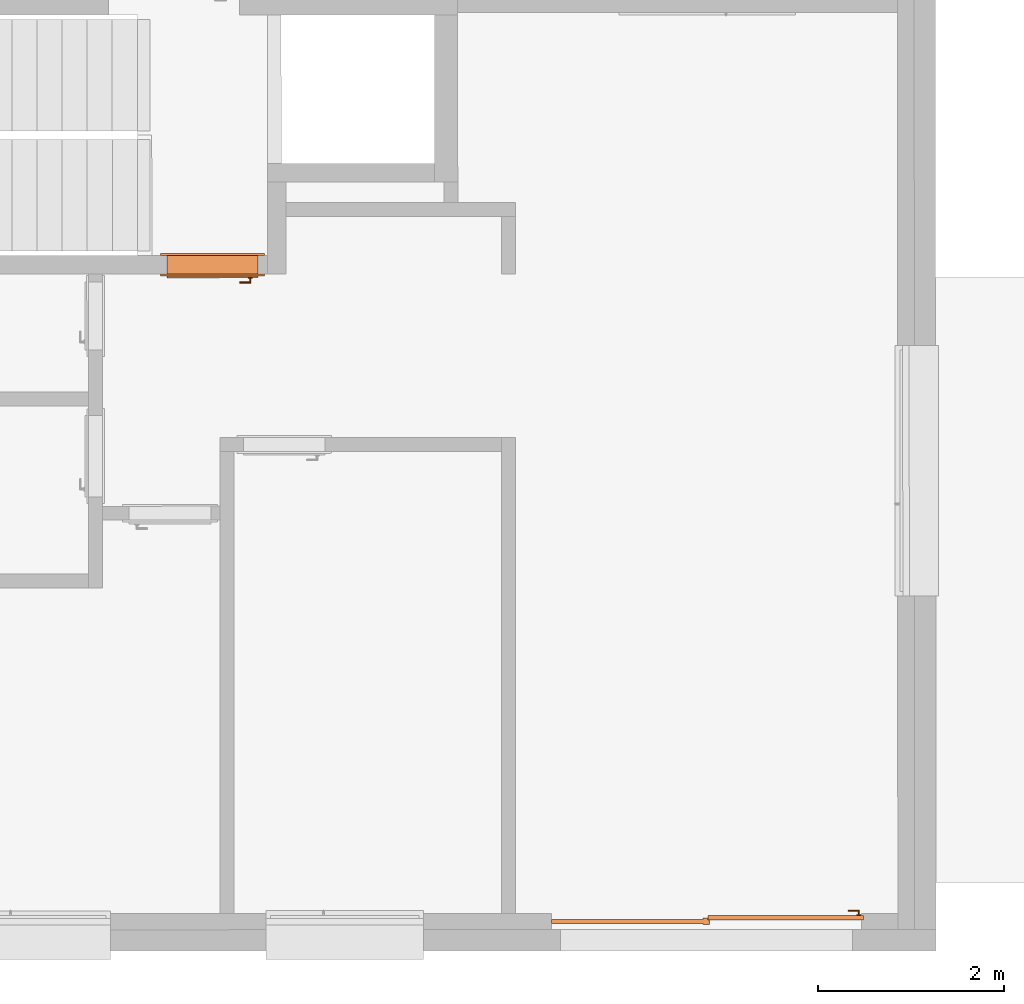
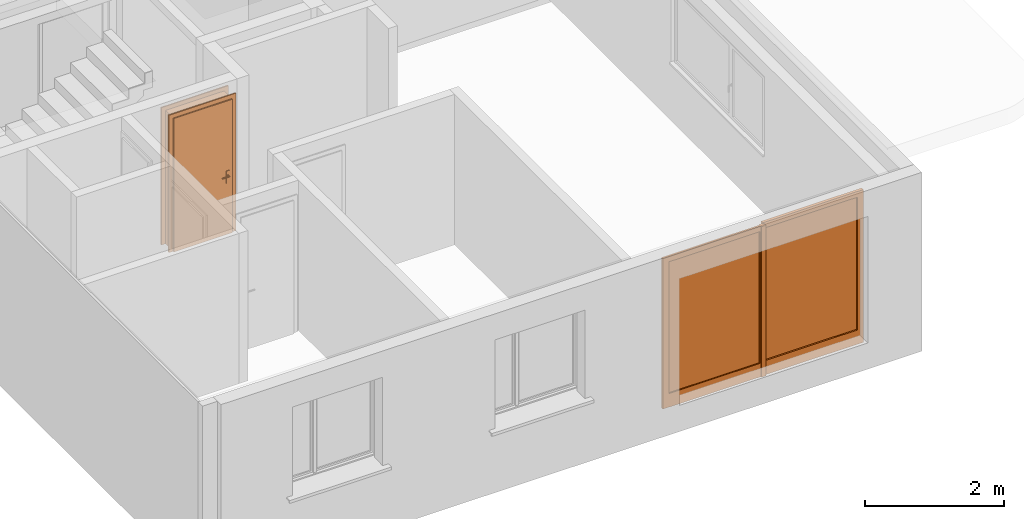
# One storey, part 6 of 9: 2 proxies.
"""IFC2X3 building model written with IfcOpenShell, lengths in metres."""

from ifc_helpers import new_model, entity, si_unit, converted_unit, derived_unit, direction, frame, origin, origin_with_axes, place, context, subcontext, project, spatial, closed_shell, open_shell, faceted_brep, surface_model, source, transform, mapped, element, save


model = new_model("IFC2X3")

# Units and contexts
model_context = context("Model", 3, precision=1e-05, world=origin(), true_north=direction((0.772621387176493, -0.634867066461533)))
body_context = subcontext(model_context, "Body", "Model", "MODEL_VIEW")
ifc_project = project(units=[si_unit("LENGTHUNIT", "METRE"), si_unit("AREAUNIT", "SQUARE_METRE"), si_unit("VOLUMEUNIT", "CUBIC_METRE"), si_unit("MASSUNIT", "GRAM", prefix="KILO"), converted_unit("PLANEANGLEUNIT", "DEGREE", entity("IfcPlaneAngleMeasure", 0.0174532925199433), si_unit("PLANEANGLEUNIT", "RADIAN"), dimensions=[0, 0, 0, 0, 0, 0, 0]), derived_unit("THERMALTRANSMITTANCEUNIT", [(si_unit("POWERUNIT", "WATT"), 1), (si_unit("THERMODYNAMICTEMPERATUREUNIT", "KELVIN"), -1), (si_unit("LENGTHUNIT", "METRE"), -2)]), derived_unit("VOLUMETRICFLOWRATEUNIT", [(si_unit("LENGTHUNIT", "METRE"), 3), (converted_unit("TIMEUNIT", "hour", entity("IfcTimeMeasure", 3600.0), si_unit("TIMEUNIT", "SECOND"), dimensions=[0, 0, 1, 0, 0, 0, 0]), -1), (si_unit("LENGTHUNIT", "METRE"), -1)])], contexts=[model_context])

# Site, building, storey
site_placement = place(None, origin())
site = spatial("IfcSite", under=ifc_project, at=site_placement, Name="Modelle auf dem Nullpunkt", CompositionType="ELEMENT")
building_placement = place(site_placement, origin())
building = spatial("IfcBuilding", under=site, at=building_placement, Name="I", CompositionType="ELEMENT")
storey_placement = place(building_placement, origin())
storey = spatial("IfcBuildingStorey", under=building, at=storey_placement, Name="EG", CompositionType="ELEMENT", Elevation=0.0)

# Proxies
shared_shape_1 = source(origin_with_axes(), body_context, "Body", "SurfaceModel", [
    surface_model("IfcShellBasedSurfaceModel", [(1.70500000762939, 0.0, 2.67), (1.70500000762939, 0.0, 0.02), (1.63500000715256, 0.0, 0.02), (1.63500000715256, 0.0, 2.67), (1.70500000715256, 0.0699999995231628, 0.02), (1.70500000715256, 0.0699999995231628, 2.67), (1.63500000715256, 0.0699999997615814, 2.67), (1.63500000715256, 0.0699999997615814, 0.02)], [closed_shell([[[0, 1, 2, 3]], [[4, 5, 6, 7]], [[1, 0, 5, 4]], [[2, 1, 4, 7]], [[3, 2, 7, 6]], [[0, 3, 6, 5]]], orient=[[False], [False], [False], [False], [False], [False]])]),
    surface_model("IfcShellBasedSurfaceModel", [(3.36000000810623, 0.0499999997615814, 2.69), (3.36000000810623, 0.0499999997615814, 0.0), (3.26000000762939, 0.0499999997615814, 0.0), (3.26000000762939, 0.0499999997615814, 2.69), (3.36000000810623, 0.0999999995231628, 0.0), (3.36000000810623, 0.0999999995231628, 2.69), (3.26000000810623, 0.0999999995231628, 2.69), (3.26000000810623, 0.0999999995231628, 0.0)], [closed_shell([[[0, 1, 2, 3]], [[4, 5, 6, 7]], [[1, 0, 5, 4]], [[2, 1, 4, 7]], [[3, 2, 7, 6]], [[0, 3, 6, 5]]], orient=[[False], [False], [False], [False], [False], [False]])]),
    surface_model("IfcShellBasedSurfaceModel", [(1.72500000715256, 0.0499999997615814, 2.69), (1.72500000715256, 0.0499999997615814, 0.0), (1.68500000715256, 0.0499999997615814, 0.0), (1.68500000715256, 0.0499999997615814, 2.69), (1.72500000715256, 0.0999999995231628, 0.0), (1.72500000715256, 0.0999999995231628, 2.69), (1.68500000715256, 0.0999999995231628, 2.69), (1.68500000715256, 0.0999999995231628, 0.0)], [closed_shell([[[0, 1, 2, 3]], [[4, 5, 6, 7]], [[1, 0, 5, 4]], [[2, 1, 4, 7]], [[3, 2, 7, 6]], [[0, 3, 6, 5]]], orient=[[False], [False], [False], [False], [False], [False]])]),
    surface_model("IfcShellBasedSurfaceModel", [(3.26000000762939, 0.0499999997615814, 0.25), (3.26000000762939, 0.0499999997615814, 0.0), (1.72500000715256, 0.0499999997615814, 0.0), (1.72500000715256, 0.0499999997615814, 0.25), (3.26000000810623, 0.0999999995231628, 0.0), (3.26000000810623, 0.0999999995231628, 0.25), (1.72500000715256, 0.0999999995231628, 0.25), (1.72500000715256, 0.0999999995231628, 0.0)], [closed_shell([[[0, 1, 2, 3]], [[4, 5, 6, 7]], [[1, 0, 5, 4]], [[2, 1, 4, 7]], [[3, 2, 7, 6]], [[0, 3, 6, 5]]], orient=[[False], [False], [False], [False], [False], [False]])]),
    surface_model("IfcShellBasedSurfaceModel", [(3.26000000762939, 0.0499999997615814, 2.69), (3.26000000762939, 0.0499999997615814, 2.59), (1.72500000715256, 0.0499999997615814, 2.59), (1.72500000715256, 0.0499999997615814, 2.69), (3.26000000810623, 0.0999999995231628, 2.59), (3.26000000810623, 0.0999999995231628, 2.69), (1.72500000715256, 0.0999999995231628, 2.69), (1.72500000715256, 0.0999999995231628, 2.59)], [closed_shell([[[0, 1, 2, 3]], [[4, 5, 6, 7]], [[1, 0, 5, 4]], [[2, 1, 4, 7]], [[3, 2, 7, 6]], [[0, 3, 6, 5]]], orient=[[False], [False], [False], [False], [False], [False]])]),
    surface_model("IfcShellBasedSurfaceModel", [(3.33500000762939, 0.0999999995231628, 1.145), (3.33500000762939, 0.0999999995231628, 0.93), (3.28500000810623, 0.0999999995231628, 0.93), (3.28500000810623, 0.0999999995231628, 1.145), (3.33500000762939, 0.109999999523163, 0.93), (3.33500000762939, 0.109999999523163, 1.145), (3.28500000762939, 0.109999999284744, 1.145), (3.28500000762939, 0.109999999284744, 0.93)], [closed_shell([[[0, 1, 2, 3]], [[4, 5, 6, 7]], [[1, 0, 5, 4]], [[2, 1, 4, 7]], [[3, 2, 7, 6]], [[0, 3, 6, 5]]], orient=[[False], [False], [False], [False], [False], [False]])]),
    surface_model("IfcShellBasedSurfaceModel", [(3.31000000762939, 0.109999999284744, 1.08), (3.31500000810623, 0.109999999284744, 1.07866025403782), (3.31866026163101, 0.109999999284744, 1.075), (3.32000000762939, 0.109999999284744, 1.07), (3.31866026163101, 0.109999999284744, 1.065), (3.31500000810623, 0.109999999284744, 1.06133974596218), (3.31000000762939, 0.109999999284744, 1.06), (3.30500000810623, 0.109999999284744, 1.06133974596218), (3.30133975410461, 0.109999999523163, 1.065), (3.30000000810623, 0.109999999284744, 1.07), (3.30133975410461, 0.109999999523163, 1.075), (3.30500000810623, 0.109999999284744, 1.07866025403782), (3.31000000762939, 0.149999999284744, 1.08), (3.31500000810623, 0.154999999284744, 1.07866025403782), (3.31866026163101, 0.158660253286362, 1.075), (3.32000000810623, 0.159999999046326, 1.07), (3.31866026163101, 0.158660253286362, 1.065), (3.31500000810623, 0.154999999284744, 1.06133974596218), (3.31000000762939, 0.149999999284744, 1.06), (3.30500000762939, 0.144999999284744, 1.06133974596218), (3.30133975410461, 0.141339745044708, 1.065), (3.30000000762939, 0.139999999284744, 1.07), (3.30133975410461, 0.141339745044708, 1.075), (3.30500000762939, 0.144999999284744, 1.07866025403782), (3.19500000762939, 0.149999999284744, 1.08), (3.19500000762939, 0.144999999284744, 1.07866025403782), (3.19500000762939, 0.141339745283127, 1.075), (3.19500000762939, 0.139999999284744, 1.07), (3.19500000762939, 0.141339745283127, 1.065), (3.19500000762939, 0.144999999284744, 1.06133974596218), (3.19500000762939, 0.149999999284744, 1.06), (3.19500000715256, 0.154999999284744, 1.06133974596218), (3.19500000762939, 0.158660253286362, 1.065), (3.19500000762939, 0.159999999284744, 1.07), (3.19500000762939, 0.158660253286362, 1.075), (3.19500000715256, 0.154999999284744, 1.07866025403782)], [closed_shell([[[0, 1, 2, 3, 4, 5, 6, 7, 8, 9, 10, 11]], [[0, 12, 13, 1]], [[1, 13, 14, 2]], [[2, 14, 15, 3]], [[3, 15, 16, 4]], [[4, 16, 17, 5]], [[5, 17, 18, 6]], [[6, 18, 19, 7]], [[7, 19, 20, 8]], [[8, 20, 21, 9]], [[9, 21, 22, 10]], [[10, 22, 23, 11]], [[11, 23, 12, 0]], [[24, 25, 26, 27, 28, 29, 30, 31, 32, 33, 34, 35]], [[12, 24, 35, 13]], [[13, 35, 34, 14]], [[14, 34, 33, 15]], [[15, 33, 32, 16]], [[16, 32, 31, 17]], [[17, 31, 30, 18]], [[18, 30, 29, 19]], [[19, 29, 28, 20]], [[20, 28, 27, 21]], [[21, 27, 26, 22]], [[22, 26, 25, 23]], [[23, 25, 24, 12]]], orient=[[False], [False], [False], [False], [False], [False], [False], [False], [False], [False], [False], [False], [False], [False], [False], [False], [False], [False], [False], [False], [False], [False], [False], [False], [False], [False]])]),
    surface_model("IfcShellBasedSurfaceModel", [(1.63500000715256, 0.0149999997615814, 2.67), (1.63500000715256, 0.0149999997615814, 0.02), (1.61500000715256, 0.015, 0.02), (1.61500000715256, 0.015, 2.67), (1.63500000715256, 0.0549999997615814, 0.02), (1.63500000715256, 0.0549999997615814, 2.67), (1.61500000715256, 0.0549999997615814, 2.67), (1.61500000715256, 0.0549999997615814, 0.02)], [closed_shell([[[0, 1, 2, 3]], [[4, 5, 6, 7]], [[1, 0, 5, 4]], [[2, 1, 4, 7]], [[3, 2, 7, 6]], [[0, 3, 6, 5]]], orient=[[False], [False], [False], [False], [False], [False]])]),
    surface_model("IfcShellBasedSurfaceModel", [(0.10000000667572, 0.0150000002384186, 2.67), (0.10000000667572, 0.0150000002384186, 0.02), (0.0, 0.0150000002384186, 0.02), (0.0, 0.0150000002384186, 2.67), (0.10000000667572, 0.0549999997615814, 0.02), (0.10000000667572, 0.0549999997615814, 2.67), (0.0, 0.0549999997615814, 2.67), (0.0, 0.0549999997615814, 0.02)], [closed_shell([[[0, 1, 2, 3]], [[4, 5, 6, 7]], [[1, 0, 5, 4]], [[2, 1, 4, 7]], [[3, 2, 7, 6]], [[0, 3, 6, 5]]], orient=[[False], [False], [False], [False], [False], [False]])]),
    surface_model("IfcShellBasedSurfaceModel", [(1.61500000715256, 0.015, 0.26), (1.61500000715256, 0.015, 0.02), (0.10000000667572, 0.0150000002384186, 0.02), (0.10000000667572, 0.0150000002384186, 0.26), (1.61500000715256, 0.0549999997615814, 0.02), (1.61500000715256, 0.0549999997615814, 0.26), (0.10000000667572, 0.0549999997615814, 0.26), (0.10000000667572, 0.0549999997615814, 0.02)], [closed_shell([[[0, 1, 2, 3]], [[4, 5, 6, 7]], [[1, 0, 5, 4]], [[2, 1, 4, 7]], [[3, 2, 7, 6]], [[0, 3, 6, 5]]], orient=[[False], [False], [False], [False], [False], [False]])]),
    surface_model("IfcShellBasedSurfaceModel", [(1.61500000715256, 0.015, 2.67), (1.61500000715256, 0.015, 2.58), (0.10000000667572, 0.0150000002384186, 2.58), (0.10000000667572, 0.0150000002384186, 2.67), (1.61500000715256, 0.0549999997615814, 2.58), (1.61500000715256, 0.0549999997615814, 2.67), (0.10000000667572, 0.0549999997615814, 2.67), (0.10000000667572, 0.0549999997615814, 2.58)], [closed_shell([[[0, 1, 2, 3]], [[4, 5, 6, 7]], [[1, 0, 5, 4]], [[2, 1, 4, 7]], [[3, 2, 7, 6]], [[0, 3, 6, 5]]], orient=[[False], [False], [False], [False], [False], [False]])]),
    surface_model("IfcShellBasedSurfaceModel", [(3.26000000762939, 0.0749999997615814, 0.25), (1.72500000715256, 0.0749999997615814, 0.25), (1.72500000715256, 0.0749999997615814, 2.59), (3.26000000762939, 0.0749999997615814, 2.59)], [open_shell([[[0, 1, 2, 3]]], orient=[[False]])]),
    surface_model("IfcShellBasedSurfaceModel", [(1.61500000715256, 0.035, 0.26), (0.10000000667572, 0.0349999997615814, 0.26), (0.10000000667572, 0.0349999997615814, 2.58), (1.61500000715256, 0.035, 2.58)], [open_shell([[[0, 1, 2, 3]]], orient=[[False]])]),
])
proxy_1_placement = place(storey_placement, frame((37.1204811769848, -7.85814579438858, 435.87), z_axis=(0.0, 0.0, 1.0), x_axis=(0.999999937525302, 0.000353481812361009, 0.0)))
element("IfcBuildingElementProxy", 1, at=proxy_1_placement, inside=storey, Name="1flg Weiß Blockzarge", ObjectType="DOOR", context=body_context, shape_type="MappedRepresentation", body=[
    mapped(shared_shape_1, transform((0.0, 0.0, 0.0), x_axis=(1.0, 0.0, 0.0), y_axis=(0.0, 1.0, 0.0), z_axis=(0.0, 0.0, 1.0), scale=1.0)),
])
shared_shape_2 = source(origin_with_axes(), body_context, "Body", "Brep", [
    faceted_brep([(0.0700000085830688, 0.240000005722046, 2.35), (0.0700000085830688, 0.240000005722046, 0.0), (0.0900000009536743, 0.240000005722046, 0.0), (0.0900000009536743, 0.240000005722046, 2.35), (0.0700000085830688, 0.0, 0.0), (0.0700000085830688, 0.0, 2.35), (0.0900000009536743, 0.0, 2.35), (0.0900000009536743, 0.0, 0.0)], [[[0, 1, 2, 3]], [[4, 5, 6, 7]], [[1, 0, 5, 4]], [[2, 1, 4, 7]], [[3, 2, 7, 6]], [[0, 3, 6, 5]]], orient=[[False], [False], [False], [False], [False], [False]]),
    faceted_brep([(0.0700000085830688, 0.240000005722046, 2.42), (0.0, 0.240000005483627, 2.42), (0.0, 0.240000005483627, 0.0), (0.0700000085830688, 0.240000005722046, 0.0), (0.0700000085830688, 0.22000000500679, 0.0), (0.0, 0.220000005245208, 0.0), (0.0, 0.220000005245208, 2.42), (0.0700000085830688, 0.22000000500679, 2.42)], [[[0, 1, 2, 3]], [[4, 5, 6, 7]], [[3, 4, 7, 0]], [[2, 5, 4, 3]], [[1, 6, 5, 2]], [[0, 7, 6, 1]]], orient=[[False], [False], [False], [False], [False], [False]]),
    faceted_brep([(0.0700000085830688, 0.0200000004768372, 2.42), (0.0, 0.0200000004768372, 2.42), (0.0, 0.0200000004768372, 0.0), (0.0700000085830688, 0.0200000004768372, 0.0), (0.0700000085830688, 0.0, 0.0), (0.0, 0.0, 0.0), (0.0, 0.0, 2.42), (0.0700000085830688, 0.0, 2.42)], [[[0, 1, 2, 3]], [[4, 5, 6, 7]], [[3, 4, 7, 0]], [[2, 5, 4, 3]], [[1, 6, 5, 2]], [[0, 7, 6, 1]]], orient=[[False], [False], [False], [False], [False], [False]]),
    faceted_brep([(1.03000000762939, 0.240000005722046, 2.35), (1.03000000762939, 0.240000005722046, 0.0), (1.05000000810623, 0.240000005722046, 0.0), (1.05000000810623, 0.240000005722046, 2.35), (1.03000000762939, 0.0, 0.0), (1.03000000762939, 0.0, 2.35), (1.05000000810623, 0.0, 2.35), (1.05000000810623, 0.0, 0.0)], [[[0, 1, 2, 3]], [[4, 5, 6, 7]], [[1, 0, 5, 4]], [[2, 1, 4, 7]], [[3, 2, 7, 6]], [[0, 3, 6, 5]]], orient=[[False], [False], [False], [False], [False], [False]]),
    faceted_brep([(1.05000000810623, 0.240000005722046, 2.42), (1.05000000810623, 0.240000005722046, 0.0), (1.12000000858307, 0.240000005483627, 0.0), (1.12000000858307, 0.240000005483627, 2.42), (1.05000000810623, 0.22000000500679, 0.0), (1.05000000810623, 0.22000000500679, 2.42), (1.12000000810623, 0.220000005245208, 2.42), (1.12000000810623, 0.220000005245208, 0.0)], [[[0, 1, 2, 3]], [[4, 5, 6, 7]], [[1, 0, 5, 4]], [[2, 1, 4, 7]], [[3, 2, 7, 6]], [[0, 3, 6, 5]]], orient=[[False], [False], [False], [False], [False], [False]]),
    faceted_brep([(1.05000000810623, 0.0200000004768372, 2.42), (1.05000000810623, 0.0200000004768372, 0.0), (1.12000000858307, 0.0200000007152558, 0.0), (1.12000000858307, 0.0200000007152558, 2.42), (1.05000000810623, 0.0, 0.0), (1.05000000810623, 0.0, 2.42), (1.12000000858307, 0.0, 2.42), (1.12000000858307, 0.0, 0.0)], [[[0, 1, 2, 3]], [[4, 5, 6, 7]], [[1, 0, 5, 4]], [[2, 1, 4, 7]], [[3, 2, 7, 6]], [[0, 3, 6, 5]]], orient=[[False], [False], [False], [False], [False], [False]]),
    faceted_brep([(0.0900000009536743, 0.240000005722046, 2.35), (0.0900000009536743, 0.240000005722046, 2.33), (1.03000000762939, 0.240000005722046, 2.33), (1.03000000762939, 0.240000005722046, 2.35), (0.0900000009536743, 0.0, 2.33), (0.0900000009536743, 0.0, 2.35), (1.03000000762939, 0.0, 2.35), (1.03000000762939, 0.0, 2.33)], [[[0, 1, 2, 3]], [[4, 5, 6, 7]], [[1, 0, 5, 4]], [[2, 1, 4, 7]], [[3, 2, 7, 6]], [[0, 3, 6, 5]]], orient=[[False], [False], [False], [False], [False], [False]]),
    faceted_brep([(0.0700000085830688, 0.240000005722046, 2.42), (0.0700000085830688, 0.240000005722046, 2.35), (1.05000000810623, 0.240000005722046, 2.35), (1.05000000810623, 0.240000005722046, 2.42), (0.0700000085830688, 0.22000000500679, 2.35), (0.0700000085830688, 0.22000000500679, 2.42), (1.05000000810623, 0.22000000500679, 2.42), (1.05000000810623, 0.22000000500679, 2.35)], [[[0, 1, 2, 3]], [[4, 5, 6, 7]], [[1, 0, 5, 4]], [[2, 1, 4, 7]], [[3, 2, 7, 6]], [[0, 3, 6, 5]]], orient=[[False], [False], [False], [False], [False], [False]]),
    faceted_brep([(0.0700000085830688, 0.0200000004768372, 2.42), (0.0700000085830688, 0.0200000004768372, 2.35), (1.05000000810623, 0.0200000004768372, 2.35), (1.05000000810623, 0.0200000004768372, 2.42), (0.0700000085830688, 0.0, 2.35), (0.0700000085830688, 0.0, 2.42), (1.05000000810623, 0.0, 2.42), (1.05000000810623, 0.0, 2.35)], [[[0, 1, 2, 3]], [[4, 5, 6, 7]], [[1, 0, 5, 4]], [[2, 1, 4, 7]], [[3, 2, 7, 6]], [[0, 3, 6, 5]]], orient=[[False], [False], [False], [False], [False], [False]]),
    faceted_brep([(0.0700000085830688, 0.260000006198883, 2.35), (0.0700000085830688, 0.260000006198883, 0.0), (1.05000000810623, 0.260000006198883, 0.0), (1.05000000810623, 0.260000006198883, 2.35), (0.0700000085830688, 0.22000000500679, 0.0), (0.0700000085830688, 0.22000000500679, 2.35), (1.05000000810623, 0.22000000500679, 2.35), (1.05000000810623, 0.22000000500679, 0.0)], [[[0, 1, 2, 3]], [[4, 5, 6, 7]], [[1, 0, 5, 4]], [[2, 1, 4, 7]], [[3, 2, 7, 6]], [[0, 3, 6, 5]]], orient=[[False], [False], [False], [False], [False], [False]]),
    faceted_brep([(0.130000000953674, 0.220000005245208, 1.125), (0.130000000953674, 0.220000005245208, 0.91), (0.180000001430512, 0.22000000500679, 0.91), (0.180000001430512, 0.22000000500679, 1.125), (0.130000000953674, 0.210000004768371, 0.91), (0.130000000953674, 0.210000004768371, 1.125), (0.180000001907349, 0.21000000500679, 1.125), (0.180000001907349, 0.21000000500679, 0.91)], [[[0, 1, 2, 3]], [[4, 5, 6, 7]], [[1, 0, 5, 4]], [[2, 1, 4, 7]], [[3, 2, 7, 6]], [[0, 3, 6, 5]]], orient=[[False], [False], [False], [False], [False], [False]]),
    faceted_brep([(0.155000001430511, 0.21000000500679, 1.06), (0.150000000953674, 0.210000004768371, 1.05866025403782), (0.146339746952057, 0.21000000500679, 1.055), (0.145000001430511, 0.210000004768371, 1.05), (0.146339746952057, 0.21000000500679, 1.045), (0.150000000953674, 0.210000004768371, 1.04133974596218), (0.155000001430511, 0.21000000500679, 1.04), (0.160000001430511, 0.21000000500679, 1.04133974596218), (0.163660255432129, 0.21000000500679, 1.045), (0.165000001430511, 0.21000000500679, 1.05), (0.163660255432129, 0.21000000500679, 1.055), (0.160000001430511, 0.21000000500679, 1.05866025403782), (0.155000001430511, 0.170000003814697, 1.06), (0.150000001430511, 0.165000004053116, 1.05866025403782), (0.146339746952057, 0.161339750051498, 1.055), (0.145000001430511, 0.160000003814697, 1.05), (0.146339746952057, 0.161339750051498, 1.045), (0.150000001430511, 0.165000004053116, 1.04133974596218), (0.155000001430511, 0.170000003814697, 1.04), (0.160000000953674, 0.175000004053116, 1.04133974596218), (0.163660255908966, 0.178660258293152, 1.045), (0.165000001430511, 0.180000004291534, 1.05), (0.163660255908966, 0.178660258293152, 1.055), (0.160000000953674, 0.175000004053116, 1.05866025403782), (0.270000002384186, 0.170000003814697, 1.06), (0.270000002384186, 0.175000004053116, 1.05866025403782), (0.270000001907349, 0.178660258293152, 1.055), (0.270000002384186, 0.180000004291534, 1.05), (0.270000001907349, 0.178660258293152, 1.045), (0.270000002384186, 0.175000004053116, 1.04133974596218), (0.270000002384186, 0.170000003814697, 1.04), (0.270000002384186, 0.165000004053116, 1.04133974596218), (0.270000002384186, 0.16133974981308, 1.045), (0.270000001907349, 0.160000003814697, 1.05), (0.270000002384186, 0.16133974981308, 1.055), (0.270000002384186, 0.165000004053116, 1.05866025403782)], [[[0, 1, 2, 3, 4, 5, 6, 7, 8, 9, 10, 11]], [[0, 12, 13, 1]], [[1, 13, 14, 2]], [[2, 14, 15, 3]], [[3, 15, 16, 4]], [[4, 16, 17, 5]], [[5, 17, 18, 6]], [[6, 18, 19, 7]], [[7, 19, 20, 8]], [[8, 20, 21, 9]], [[9, 21, 22, 10]], [[10, 22, 23, 11]], [[11, 23, 12, 0]], [[24, 25, 26, 27, 28, 29, 30, 31, 32, 33, 34, 35]], [[12, 24, 35, 13]], [[13, 35, 34, 14]], [[14, 34, 33, 15]], [[15, 33, 32, 16]], [[16, 32, 31, 17]], [[17, 31, 30, 18]], [[18, 30, 29, 19]], [[19, 29, 28, 20]], [[20, 28, 27, 21]], [[21, 27, 26, 22]], [[22, 26, 25, 23]], [[23, 25, 24, 12]]], orient=[[False], [False], [False], [False], [False], [False], [False], [False], [False], [False], [False], [False], [False], [False], [False], [False], [False], [False], [False], [False], [False], [False], [False], [False], [False], [False]]),
    faceted_brep([(0.130000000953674, 0.260000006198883, 1.125), (0.180000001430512, 0.260000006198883, 1.125), (0.180000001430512, 0.260000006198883, 0.91), (0.130000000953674, 0.260000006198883, 0.91), (0.130000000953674, 0.270000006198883, 0.91), (0.180000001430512, 0.270000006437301, 0.91), (0.180000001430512, 0.270000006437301, 1.125), (0.130000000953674, 0.270000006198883, 1.125)], [[[0, 1, 2, 3]], [[4, 5, 6, 7]], [[3, 4, 7, 0]], [[2, 5, 4, 3]], [[1, 6, 5, 2]], [[0, 7, 6, 1]]], orient=[[False], [False], [False], [False], [False], [False]]),
    faceted_brep([(0.155000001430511, 0.270000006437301, 1.06), (0.160000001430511, 0.270000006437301, 1.05866025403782), (0.163660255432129, 0.270000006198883, 1.055), (0.165000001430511, 0.270000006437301, 1.05), (0.163660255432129, 0.270000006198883, 1.045), (0.160000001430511, 0.270000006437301, 1.04133974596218), (0.155000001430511, 0.270000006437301, 1.04), (0.150000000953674, 0.270000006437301, 1.04133974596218), (0.146339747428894, 0.270000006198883, 1.045), (0.145000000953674, 0.270000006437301, 1.05), (0.146339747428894, 0.270000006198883, 1.055), (0.150000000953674, 0.270000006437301, 1.05866025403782), (0.150000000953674, 0.315000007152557, 1.05866025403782), (0.155000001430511, 0.310000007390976, 1.06), (0.146339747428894, 0.318660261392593, 1.055), (0.145000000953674, 0.320000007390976, 1.05), (0.146339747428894, 0.318660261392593, 1.045), (0.150000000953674, 0.315000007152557, 1.04133974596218), (0.155000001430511, 0.310000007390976, 1.04), (0.160000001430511, 0.305000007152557, 1.04133974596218), (0.163660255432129, 0.301339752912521, 1.045), (0.165000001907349, 0.300000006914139, 1.05), (0.163660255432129, 0.301339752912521, 1.055), (0.160000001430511, 0.305000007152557, 1.05866025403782), (0.270000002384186, 0.310000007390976, 1.06), (0.270000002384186, 0.315000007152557, 1.05866025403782), (0.270000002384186, 0.318660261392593, 1.055), (0.270000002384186, 0.320000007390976, 1.05), (0.270000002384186, 0.318660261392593, 1.045), (0.270000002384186, 0.315000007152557, 1.04133974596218), (0.270000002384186, 0.310000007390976, 1.04), (0.270000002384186, 0.305000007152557, 1.04133974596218), (0.270000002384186, 0.301339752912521, 1.045), (0.270000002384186, 0.300000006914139, 1.05), (0.270000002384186, 0.301339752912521, 1.055), (0.270000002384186, 0.305000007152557, 1.05866025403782)], [[[0, 1, 2, 3, 4, 5, 6, 7, 8, 9, 10, 11]], [[0, 11, 12, 13]], [[11, 10, 14, 12]], [[10, 9, 15, 14]], [[9, 8, 16, 15]], [[8, 7, 17, 16]], [[7, 6, 18, 17]], [[6, 5, 19, 18]], [[5, 4, 20, 19]], [[4, 3, 21, 20]], [[3, 2, 22, 21]], [[2, 1, 23, 22]], [[1, 0, 13, 23]], [[24, 25, 26, 27, 28, 29, 30, 31, 32, 33, 34, 35]], [[13, 12, 25, 24]], [[12, 14, 26, 25]], [[14, 15, 27, 26]], [[15, 16, 28, 27]], [[16, 17, 29, 28]], [[17, 18, 30, 29]], [[18, 19, 31, 30]], [[19, 20, 32, 31]], [[20, 21, 33, 32]], [[21, 22, 34, 33]], [[22, 23, 35, 34]], [[23, 13, 24, 35]]], orient=[[False], [False], [False], [False], [False], [False], [False], [False], [False], [False], [False], [False], [False], [False], [False], [False], [False], [False], [False], [False], [False], [False], [False], [False], [False], [False]]),
])
proxy_2_placement = place(storey_placement, frame((34.0329265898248, -0.631736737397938, 435.89), z_axis=(0.0, 0.0, 1.0), x_axis=(-0.999999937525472, -0.000353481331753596, 0.0)))
element("IfcBuildingElementProxy", 2, at=proxy_2_placement, inside=storey, Name="1flg Weiß UZ außen", context=body_context, shape_type="MappedRepresentation", body=[
    mapped(shared_shape_2, transform((0.0, 0.0, 0.0), x_axis=(1.0, 0.0, 0.0), y_axis=(0.0, 1.0, 0.0), z_axis=(0.0, 0.0, 1.0), scale=1.0)),
])

save(model, "model.ifc")
